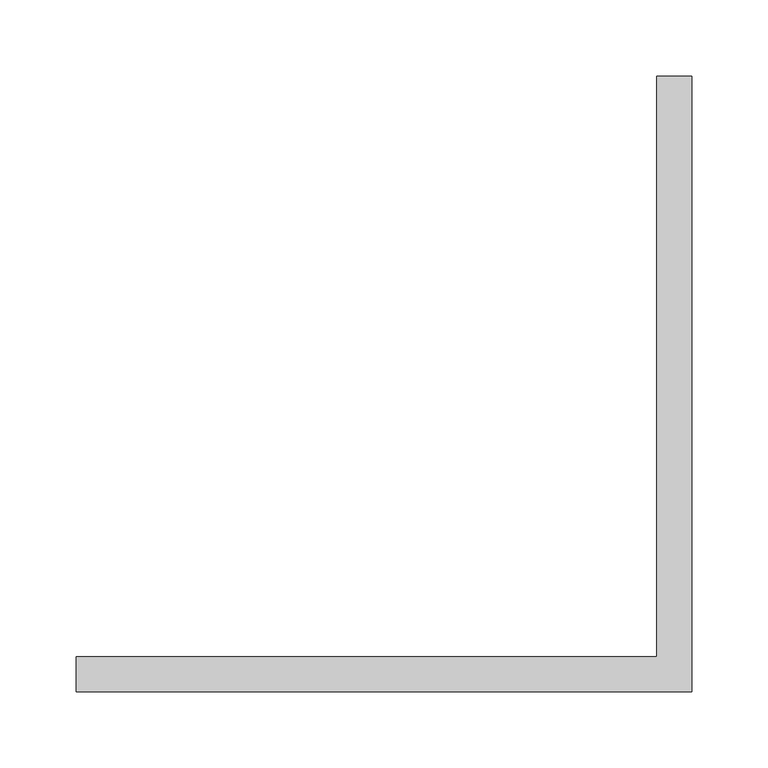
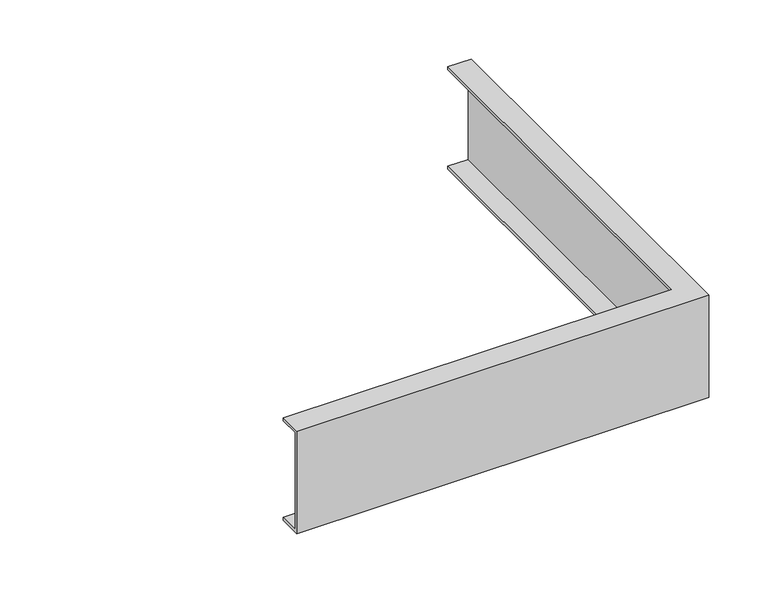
"""IFC4 building model written with IfcOpenShell, lengths in millimetres: cable carrier fitting geometry, BAKS_LDLS_CONN_Angle connector_LKSU : LKSUT_H100."""

from ifc_helpers import new_model, si_unit, origin, place, context, project, spatial, faceted_brep, source, transform, mapped, element, save


def cable_carrier_fitting_6588ca61(model_context):
    return source(origin(), model_context, "Body", "Brep", [
        faceted_brep([(-20.0, 20.0, 53.0), (-400.0, 20.0, 53.0), (-400.0, -3.0, 53.0), (3.0, -3.0, 53.0), (3.0, 400.0, 53.0), (-20.0, 400.0, 53.0), (-400.0, 20.0, 50.0), (-20.0, 20.0, 50.0), (-20.0, 400.0, 50.0), (0.0, 400.0, 50.0), (0.0, 0.0, 50.0), (-400.0, 0.0, 50.0), (-400.0, 0.0, -50.0), (-400.0, 20.0, -50.0), (-400.0, 20.0, -53.0), (-400.0, -3.0, -53.0), (3.0, 400.0, -53.0), (-20.0, 400.0, -53.0), (-20.0, 400.0, -50.0), (0.0, 400.0, -50.0), (3.0, -3.0, -53.0), (-20.0, 20.0, -53.0), (0.0, 0.0, -50.0), (-20.0, 20.0, -50.0)], [[[0, 1, 2, 3, 4, 5]], [[6, 7, 8, 9, 10, 11]], [[6, 11, 12, 13, 14, 15, 2, 1]], [[1, 0, 7, 6]], [[4, 16, 17, 18, 19, 9, 8, 5]], [[16, 4, 3, 20]], [[17, 16, 20, 15, 14, 21]], [[22, 10, 9, 19]], [[20, 3, 2, 15]], [[11, 10, 22, 12]], [[23, 13, 12, 22, 19, 18]], [[13, 23, 21, 14]], [[0, 5, 8, 7]], [[23, 18, 17, 21]]]),
    ])


if __name__ == "__main__":
    model = new_model("IFC4")
    model_context = context("Model", 3, world=origin())
    ifc_project = project(units=[si_unit("LENGTHUNIT", "METRE", prefix="MILLI")], contexts=[model_context])
    site = spatial("IfcSite", under=ifc_project)
    building = spatial("IfcBuilding", under=site)
    placement = place(None, origin())
    cable_carrier_fitting_shape = cable_carrier_fitting_6588ca61(model_context)
    element("IfcCableCarrierFitting", 1, ObjectType="BAKS_LDLS_CONN_Angle connector_LKSU : LKSUT_H100", at=placement, inside=building, context=model_context, shape_type="MappedRepresentation", body=[
        mapped(cable_carrier_fitting_shape, transform((0.0, 0.0, 0.0), x_axis=(1.0, 0.0, 0.0), y_axis=(0.0, 1.0, 0.0), z_axis=(0.0, 0.0, 1.0))),
    ])
    save(model, "model.ifc")
